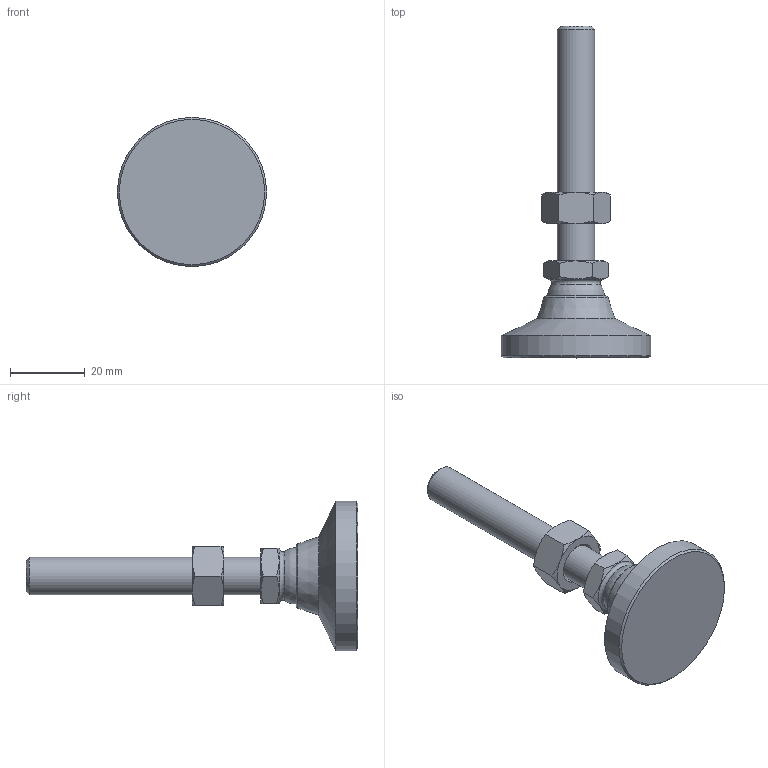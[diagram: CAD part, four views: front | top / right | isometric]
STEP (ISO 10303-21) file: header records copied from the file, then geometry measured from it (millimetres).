
FILE_DESCRIPTION( ( 'STEP AP214' ), ' ' );
FILE_NAME( 'O:/ganter_2015/teil_2/2_5/gn343_2/gn343_2_os/Levelling foot with threaded stud GN 343.2-40-M10-63-OS-(0).stp', '2015-10-26T09:07:16', ( '' ), ( '' ), ' ', 'PARTsolutions', ' ' );
FILE_SCHEMA( ( 'AUTOMOTIVE_DESIGN { 1 0 10303 214 1 1 1 1 }' ) );
Length unit declared in the file: millimetre
Products named in the file (4): Levelling foot with threaded stud GN 343.2-40-M10-63-OS-(0); _Levelling foot with threaded stud GN 343.2-40-M10-63-OS-(0)_foot; _Levelling foot with threaded stud GN 343.2-40-M10-63-OS-(0)_screw; _Stainless Steel-Levelling feet GN 343.2-40-M10-63-OS-(0)_nut
Assembly tree (3 placements, depth 2):
  Levelling foot with threaded stud GN 343.2-40-M10-63-OS-(0)
    _Levelling foot with threaded stud GN 343.2-40-M10-63-OS-(0)_foot
    _Levelling foot with threaded stud GN 343.2-40-M10-63-OS-(0)_screw
    _Stainless Steel-Levelling feet GN 343.2-40-M10-63-OS-(0)_nut
Bounding box: 40 x 89 x 40 mm (x, y, z)
Volume: 20609.5 mm3; surface area: 7851.7 mm2
Topology: 3 solids, 3 shells, 50 faces, 107 edges, 63 vertices
Faces by surface type: cone 25, plane 18, cylinder 3, torus 2, sphere 2
Full cylindrical faces by diameter (mm): 8.376 x1, 10 x1, 40 x1
Entity records: 1874 total; most frequent: CARTESIAN_POINT 468, DIRECTION 188, ORIENTED_EDGE 176, AXIS2_PLACEMENT_3D 88, EDGE_CURVE 88, EDGE_LOOP 66, VERTEX_POINT 60, FACE_OUTER_BOUND 55
